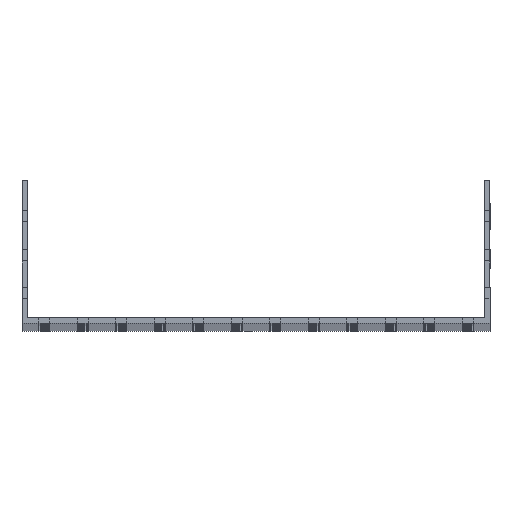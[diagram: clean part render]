
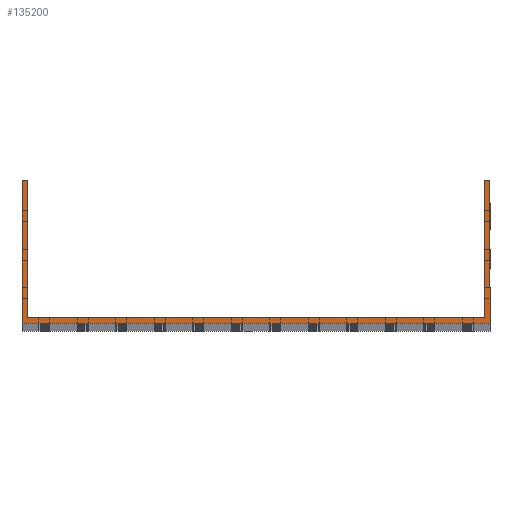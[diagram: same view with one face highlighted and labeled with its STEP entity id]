
A CAD part, top view. The second image highlights one B-rep face of the part: STEP entity #135200.
In plain terms, the highlighted planar face has unit normal (0, 0, 1).
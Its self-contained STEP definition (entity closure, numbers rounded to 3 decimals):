
#1014 = CARTESIAN_POINT ( 'NONE',  ( 148.5, 92.5, 1500. ) ) ;
#2878 = CARTESIAN_POINT ( 'NONE',  ( -148.5, 92.5, 1500. ) ) ;
#4664 = CARTESIAN_POINT ( 'NONE',  ( 152., 0., 1500. ) ) ;
#9587 = ORIENTED_EDGE ( 'NONE', *, *, #160879, .T. ) ;
#9984 = VECTOR ( 'NONE', #145707, 1000. ) ;
#11216 = ORIENTED_EDGE ( 'NONE', *, *, #18185, .T. ) ;
#17940 = VECTOR ( 'NONE', #166637, 1000. ) ;
#18042 = DIRECTION ( 'NONE',  ( 1., 0., 0. ) ) ;
#18185 = EDGE_CURVE ( 'NONE', #114821, #83525, #113145, .T. ) ;
#19379 = LINE ( 'NONE', #125558, #80751 ) ;
#21006 = LINE ( 'NONE', #50414, #79381 ) ;
#25207 = CARTESIAN_POINT ( 'NONE',  ( 148.5, 3.5, 1500. ) ) ;
#30301 = ORIENTED_EDGE ( 'NONE', *, *, #122354, .F. ) ;
#31392 = CARTESIAN_POINT ( 'NONE',  ( -152., 92.5, 1500. ) ) ;
#33195 = VERTEX_POINT ( 'NONE', #149233 ) ;
#36903 = LINE ( 'NONE', #51158, #9984 ) ;
#38008 = DIRECTION ( 'NONE',  ( -1., 0., 0. ) ) ;
#44766 = LINE ( 'NONE', #31392, #145251 ) ;
#44984 = AXIS2_PLACEMENT_3D ( 'NONE', #57327, #70692, #98342 ) ;
#50414 = CARTESIAN_POINT ( 'NONE',  ( -152., 3.5, 1500. ) ) ;
#51158 = CARTESIAN_POINT ( 'NONE',  ( -148.5, 92.5, 1500. ) ) ;
#51947 = CARTESIAN_POINT ( 'NONE',  ( -152., 0., 1500. ) ) ;
#52426 = DIRECTION ( 'NONE',  ( 0., 1., 0. ) ) ;
#54416 = EDGE_CURVE ( 'NONE', #64452, #114821, #44766, .T. ) ;
#55643 = EDGE_CURVE ( 'NONE', #83525, #61563, #140227, .T. ) ;
#57327 = CARTESIAN_POINT ( 'NONE',  ( 0., 0., 1500. ) ) ;
#60979 = EDGE_CURVE ( 'NONE', #33195, #111515, #88918, .T. ) ;
#61563 = VERTEX_POINT ( 'NONE', #4664 ) ;
#63799 = DIRECTION ( 'NONE',  ( 1., 0., 0. ) ) ;
#64104 = EDGE_CURVE ( 'NONE', #64452, #164051, #36903, .T. ) ;
#64452 = VERTEX_POINT ( 'NONE', #2878 ) ;
#67976 = CARTESIAN_POINT ( 'NONE',  ( -152., 92.5, 1500. ) ) ;
#70692 = DIRECTION ( 'NONE',  ( 0., 0., 1. ) ) ;
#71217 = CARTESIAN_POINT ( 'NONE',  ( -152., 92.5, 1500. ) ) ;
#71564 = CARTESIAN_POINT ( 'NONE',  ( -152., 0., 1500. ) ) ;
#72811 = EDGE_CURVE ( 'NONE', #102877, #111515, #19379, .T. ) ;
#76064 = VECTOR ( 'NONE', #52426, 1000. ) ;
#79381 = VECTOR ( 'NONE', #63799, 1000. ) ;
#80751 = VECTOR ( 'NONE', #88051, 1000. ) ;
#80914 = VECTOR ( 'NONE', #38008, 1000. ) ;
#83525 = VERTEX_POINT ( 'NONE', #51947 ) ;
#84604 = ORIENTED_EDGE ( 'NONE', *, *, #55643, .T. ) ;
#88051 = DIRECTION ( 'NONE',  ( 0., 1., 0. ) ) ;
#88918 = LINE ( 'NONE', #105798, #80914 ) ;
#93456 = LINE ( 'NONE', #148727, #76064 ) ;
#97425 = ORIENTED_EDGE ( 'NONE', *, *, #60979, .T. ) ;
#98342 = DIRECTION ( 'NONE',  ( 1., 0., 0. ) ) ;
#99229 = PLANE ( 'NONE',  #44984 ) ;
#102877 = VERTEX_POINT ( 'NONE', #25207 ) ;
#105798 = CARTESIAN_POINT ( 'NONE',  ( -152., 92.5, 1500. ) ) ;
#111515 = VERTEX_POINT ( 'NONE', #1014 ) ;
#113145 = LINE ( 'NONE', #71217, #17940 ) ;
#114616 = ORIENTED_EDGE ( 'NONE', *, *, #64104, .F. ) ;
#114821 = VERTEX_POINT ( 'NONE', #67976 ) ;
#116054 = EDGE_LOOP ( 'NONE', ( #114616, #165442, #11216, #84604, #9587, #97425, #166189, #30301 ) ) ;
#116284 = CARTESIAN_POINT ( 'NONE',  ( -148.5, 3.5, 1500. ) ) ;
#121122 = DIRECTION ( 'NONE',  ( -1., 0., 0. ) ) ;
#122354 = EDGE_CURVE ( 'NONE', #164051, #102877, #21006, .T. ) ;
#125558 = CARTESIAN_POINT ( 'NONE',  ( 148.5, 92.5, 1500. ) ) ;
#135200 = ADVANCED_FACE ( 'NONE', ( #150093 ), #99229, .T. ) ;
#140227 = LINE ( 'NONE', #71564, #156559 ) ;
#145251 = VECTOR ( 'NONE', #121122, 1000. ) ;
#145707 = DIRECTION ( 'NONE',  ( 0., -1., 0. ) ) ;
#148727 = CARTESIAN_POINT ( 'NONE',  ( 152., 92.5, 1500. ) ) ;
#149233 = CARTESIAN_POINT ( 'NONE',  ( 152., 92.5, 1500. ) ) ;
#150093 = FACE_OUTER_BOUND ( 'NONE', #116054, .T. ) ;
#156559 = VECTOR ( 'NONE', #18042, 1000. ) ;
#160879 = EDGE_CURVE ( 'NONE', #61563, #33195, #93456, .T. ) ;
#164051 = VERTEX_POINT ( 'NONE', #116284 ) ;
#165442 = ORIENTED_EDGE ( 'NONE', *, *, #54416, .T. ) ;
#166189 = ORIENTED_EDGE ( 'NONE', *, *, #72811, .F. ) ;
#166637 = DIRECTION ( 'NONE',  ( 0., -1., 0. ) ) ;
